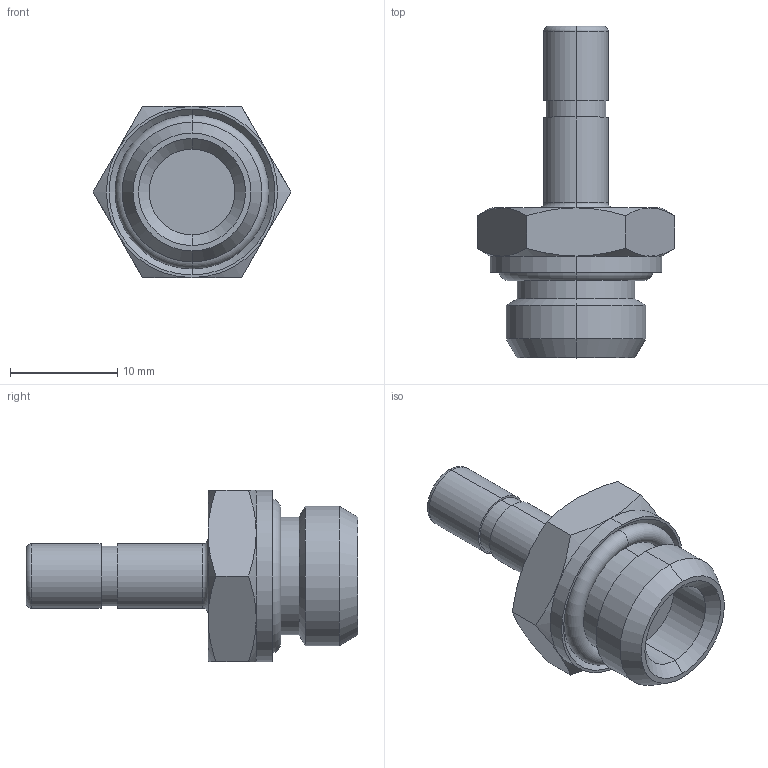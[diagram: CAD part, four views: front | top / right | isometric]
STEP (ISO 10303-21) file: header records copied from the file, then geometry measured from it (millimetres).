
FILE_DESCRIPTION (( 'STEP AP214' ), '1' );
FILE_NAME ('5060000004.step', '2012-10-01T16:59:29', ( '' ), ( '' ), 'SwSTEP 2.0', 'SolidWorks 2012', '' );
FILE_SCHEMA (( 'AUTOMOTIVE_DESIGN' ));
Length unit declared in the file: millimetre
Products named in the file (1): 5060000004
Bounding box: 18.48 x 31 x 16 mm (x, y, z)
Volume: 2387.4 mm3; surface area: 1710.7 mm2
Topology: 1 solids, 1 shells, 62 faces, 126 edges, 74 vertices
Faces by surface type: cone 20, cylinder 18, plane 16, torus 8
Entity records: 2424 total; most frequent: CARTESIAN_POINT 399, DIRECTION 298, ORIENTED_EDGE 252, AXIS2_PLACEMENT_3D 133, EDGE_CURVE 126, VERTEX_POINT 74, EDGE_LOOP 70, CIRCLE 70
